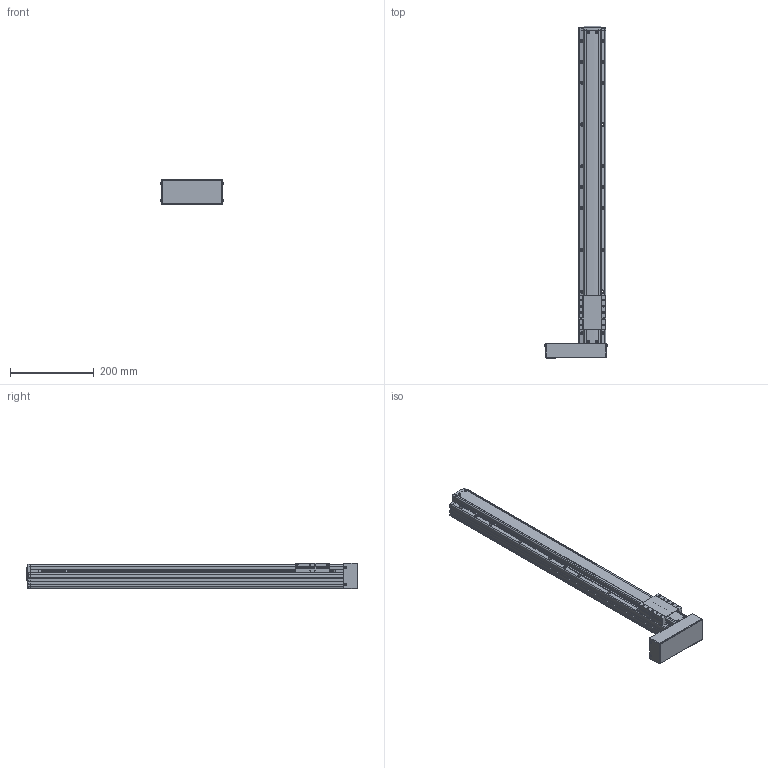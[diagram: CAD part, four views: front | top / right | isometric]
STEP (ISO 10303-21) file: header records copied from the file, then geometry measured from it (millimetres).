
FILE_DESCRIPTION(('STEP AP214'),'1');
FILE_NAME('Z:/Web/3D/PSA65/STP/PSA65-600 (3D)/PSA65ㅁㅁ-600PL.stp','2014-06-25T05:07:14',(' '),(' '),'Spatial InterOp 3D',' ',' ');
FILE_SCHEMA(('automotive_design'));
Length unit declared in the file: millimetre
Products named in the file (49): SLIDE; RRCV-PA060; 1; 2; 3; 4; 5; 6; 7; 8; 9; 10; 11; 12; 13; 14; 15; 16; 17; 18; 19; 20; 21; 22; 23; 24; 25; 26; 27; 28; 29; 30; 31; 스크루 : Round - M3.0 x 8.0; RN8 x 0.75; SHAFT-SAN65; BASE; 스크루 : Round - M3.0 x 6.0; BTCV-SAN65; BHCS M3 X 6L
Bounding box: 149.13 x 794.8 x 62 mm (x, y, z)
Volume: 2613574.1 mm3; surface area: 336552.2 mm2
Topology: 49 solids, 49 shells, 1807 faces, 4791 edges, 3044 vertices
Faces by surface type: plane 1042, cylinder 517, cone 183, sphere 30, bspline 19, torus 16
Entity records: 71652 total; most frequent: CARTESIAN_POINT 11256, DIRECTION 9570, ORIENTED_EDGE 9314, EDGE_CURVE 4657, LINE 3254, VECTOR 3254, AXIS2_PLACEMENT_3D 3158, VERTEX_POINT 3044
